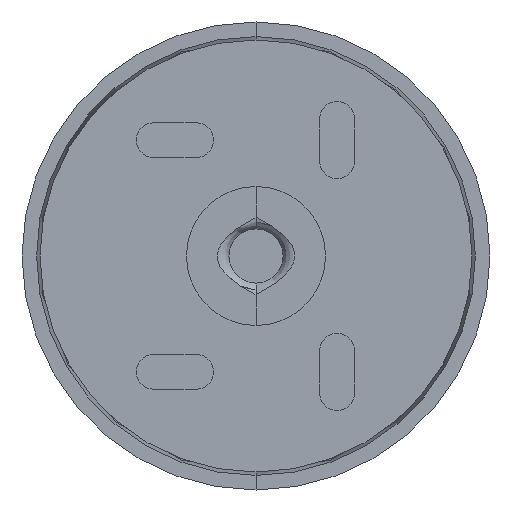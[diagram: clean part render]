
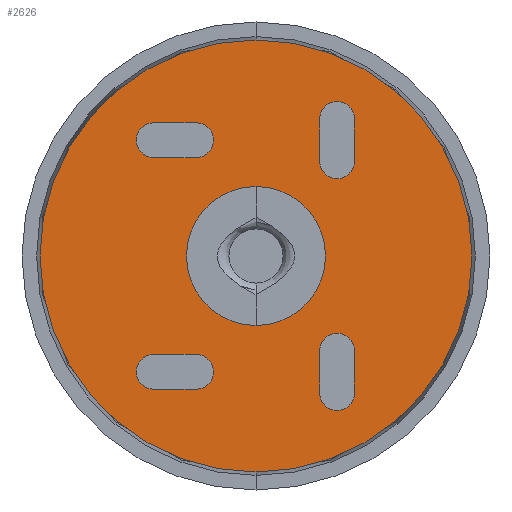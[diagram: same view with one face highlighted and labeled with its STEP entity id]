
A CAD part, front view. The second image highlights one B-rep face of the part: STEP entity #2626.
In plain terms, the highlighted planar face has unit normal (0, -1, 0) as drawn and (0, 0, -1) by its records, which use the part's own axes.
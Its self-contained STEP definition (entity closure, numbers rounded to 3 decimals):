
#86=FACE_BOUND('',#385,.T.);
#87=FACE_BOUND('',#386,.T.);
#88=FACE_BOUND('',#387,.T.);
#89=FACE_BOUND('',#388,.T.);
#90=FACE_BOUND('',#389,.T.);
#158=PLANE('',#2827);
#220=FACE_OUTER_BOUND('',#384,.T.);
#384=EDGE_LOOP('',(#1822,#1823));
#385=EDGE_LOOP('',(#1824,#1825,#1826,#1827));
#386=EDGE_LOOP('',(#1828,#1829,#1830,#1831));
#387=EDGE_LOOP('',(#1832,#1833,#1834,#1835));
#388=EDGE_LOOP('',(#1836,#1837,#1838,#1839));
#389=EDGE_LOOP('',(#1840,#1841));
#598=LINE('',#4107,#754);
#603=LINE('',#4120,#759);
#606=LINE('',#4131,#762);
#611=LINE('',#4144,#767);
#614=LINE('',#4155,#770);
#619=LINE('',#4168,#775);
#622=LINE('',#4179,#778);
#627=LINE('',#4192,#783);
#754=VECTOR('',#3196,304.8);
#759=VECTOR('',#3209,304.8);
#762=VECTOR('',#3220,304.8);
#767=VECTOR('',#3233,304.8);
#770=VECTOR('',#3244,304.8);
#775=VECTOR('',#3257,304.8);
#778=VECTOR('',#3268,304.8);
#783=VECTOR('',#3281,304.8);
#905=CIRCLE('',#2785,27.964);
#907=CIRCLE('',#2788,27.964);
#909=CIRCLE('',#2791,9.);
#911=CIRCLE('',#2794,9.);
#913=CIRCLE('',#2798,2.25);
#915=CIRCLE('',#2802,2.25);
#917=CIRCLE('',#2806,2.25);
#919=CIRCLE('',#2810,2.25);
#921=CIRCLE('',#2814,2.25);
#923=CIRCLE('',#2818,2.25);
#925=CIRCLE('',#2822,2.25);
#927=CIRCLE('',#2826,2.25);
#1120=VERTEX_POINT('',#4080);
#1121=VERTEX_POINT('',#4082);
#1124=VERTEX_POINT('',#4092);
#1125=VERTEX_POINT('',#4094);
#1128=VERTEX_POINT('',#4104);
#1129=VERTEX_POINT('',#4106);
#1131=VERTEX_POINT('',#4112);
#1133=VERTEX_POINT('',#4118);
#1136=VERTEX_POINT('',#4128);
#1137=VERTEX_POINT('',#4130);
#1139=VERTEX_POINT('',#4136);
#1141=VERTEX_POINT('',#4142);
#1144=VERTEX_POINT('',#4152);
#1145=VERTEX_POINT('',#4154);
#1147=VERTEX_POINT('',#4160);
#1149=VERTEX_POINT('',#4166);
#1152=VERTEX_POINT('',#4176);
#1153=VERTEX_POINT('',#4178);
#1155=VERTEX_POINT('',#4184);
#1157=VERTEX_POINT('',#4190);
#1358=EDGE_CURVE('',#1121,#1120,#905,.T.);
#1361=EDGE_CURVE('',#1120,#1121,#907,.T.);
#1364=EDGE_CURVE('',#1125,#1124,#909,.T.);
#1367=EDGE_CURVE('',#1124,#1125,#911,.T.);
#1370=EDGE_CURVE('',#1129,#1128,#598,.T.);
#1374=EDGE_CURVE('',#1128,#1131,#913,.T.);
#1377=EDGE_CURVE('',#1131,#1133,#603,.T.);
#1379=EDGE_CURVE('',#1133,#1129,#915,.T.);
#1382=EDGE_CURVE('',#1137,#1136,#606,.T.);
#1386=EDGE_CURVE('',#1136,#1139,#917,.T.);
#1389=EDGE_CURVE('',#1139,#1141,#611,.T.);
#1391=EDGE_CURVE('',#1141,#1137,#919,.T.);
#1394=EDGE_CURVE('',#1145,#1144,#614,.T.);
#1398=EDGE_CURVE('',#1144,#1147,#921,.T.);
#1401=EDGE_CURVE('',#1147,#1149,#619,.T.);
#1403=EDGE_CURVE('',#1149,#1145,#923,.T.);
#1406=EDGE_CURVE('',#1153,#1152,#622,.T.);
#1410=EDGE_CURVE('',#1152,#1155,#925,.T.);
#1413=EDGE_CURVE('',#1155,#1157,#627,.T.);
#1415=EDGE_CURVE('',#1157,#1153,#927,.T.);
#1822=ORIENTED_EDGE('',*,*,#1358,.T.);
#1823=ORIENTED_EDGE('',*,*,#1361,.T.);
#1824=ORIENTED_EDGE('',*,*,#1406,.T.);
#1825=ORIENTED_EDGE('',*,*,#1410,.T.);
#1826=ORIENTED_EDGE('',*,*,#1413,.T.);
#1827=ORIENTED_EDGE('',*,*,#1415,.T.);
#1828=ORIENTED_EDGE('',*,*,#1394,.T.);
#1829=ORIENTED_EDGE('',*,*,#1398,.T.);
#1830=ORIENTED_EDGE('',*,*,#1401,.T.);
#1831=ORIENTED_EDGE('',*,*,#1403,.T.);
#1832=ORIENTED_EDGE('',*,*,#1382,.T.);
#1833=ORIENTED_EDGE('',*,*,#1386,.T.);
#1834=ORIENTED_EDGE('',*,*,#1389,.T.);
#1835=ORIENTED_EDGE('',*,*,#1391,.T.);
#1836=ORIENTED_EDGE('',*,*,#1370,.T.);
#1837=ORIENTED_EDGE('',*,*,#1374,.T.);
#1838=ORIENTED_EDGE('',*,*,#1377,.T.);
#1839=ORIENTED_EDGE('',*,*,#1379,.T.);
#1840=ORIENTED_EDGE('',*,*,#1364,.T.);
#1841=ORIENTED_EDGE('',*,*,#1367,.T.);
#2626=ADVANCED_FACE('',(#220,#86,#87,#88,#89,#90),#158,.T.);
#2785=AXIS2_PLACEMENT_3D('',#4083,#3169,#3170);
#2788=AXIS2_PLACEMENT_3D('',#4087,#3176,#3177);
#2791=AXIS2_PLACEMENT_3D('',#4095,#3183,#3184);
#2794=AXIS2_PLACEMENT_3D('',#4099,#3190,#3191);
#2798=AXIS2_PLACEMENT_3D('',#4114,#3203,#3204);
#2802=AXIS2_PLACEMENT_3D('',#4123,#3214,#3215);
#2806=AXIS2_PLACEMENT_3D('',#4138,#3227,#3228);
#2810=AXIS2_PLACEMENT_3D('',#4147,#3238,#3239);
#2814=AXIS2_PLACEMENT_3D('',#4162,#3251,#3252);
#2818=AXIS2_PLACEMENT_3D('',#4171,#3262,#3263);
#2822=AXIS2_PLACEMENT_3D('',#4186,#3275,#3276);
#2826=AXIS2_PLACEMENT_3D('',#4195,#3286,#3287);
#2827=AXIS2_PLACEMENT_3D('',#4196,#3288,#3289);
#3169=DIRECTION('center_axis',(0.,0.,-1.));
#3170=DIRECTION('ref_axis',(1.,0.,0.));
#3176=DIRECTION('center_axis',(0.,0.,-1.));
#3177=DIRECTION('ref_axis',(1.,0.,0.));
#3183=DIRECTION('center_axis',(0.,0.,1.));
#3184=DIRECTION('ref_axis',(0.,1.,0.));
#3190=DIRECTION('center_axis',(0.,0.,1.));
#3191=DIRECTION('ref_axis',(0.,1.,0.));
#3196=DIRECTION('',(0.,-1.,0.));
#3203=DIRECTION('center_axis',(0.,0.,1.));
#3204=DIRECTION('ref_axis',(-1.,0.,0.));
#3209=DIRECTION('',(0.,1.,0.));
#3214=DIRECTION('center_axis',(0.,0.,1.));
#3215=DIRECTION('ref_axis',(1.,0.,0.));
#3220=DIRECTION('',(-1.,0.,0.));
#3227=DIRECTION('center_axis',(0.,0.,1.));
#3228=DIRECTION('ref_axis',(0.,1.,0.));
#3233=DIRECTION('',(1.,0.,0.));
#3238=DIRECTION('center_axis',(0.,0.,1.));
#3239=DIRECTION('ref_axis',(0.,-1.,0.));
#3244=DIRECTION('',(1.,0.,0.));
#3251=DIRECTION('center_axis',(0.,0.,1.));
#3252=DIRECTION('ref_axis',(0.,-1.,0.));
#3257=DIRECTION('',(-1.,0.,0.));
#3262=DIRECTION('center_axis',(0.,0.,1.));
#3263=DIRECTION('ref_axis',(0.,1.,0.));
#3268=DIRECTION('',(0.,1.,0.));
#3275=DIRECTION('center_axis',(0.,0.,1.));
#3276=DIRECTION('ref_axis',(1.,0.,0.));
#3281=DIRECTION('',(0.,-1.,0.));
#3286=DIRECTION('center_axis',(0.,0.,1.));
#3287=DIRECTION('ref_axis',(-1.,0.,0.));
#3288=DIRECTION('center_axis',(0.,0.,-1.));
#3289=DIRECTION('ref_axis',(0.,-1.,0.));
#4080=CARTESIAN_POINT('',(27.964,0.,0.));
#4082=CARTESIAN_POINT('',(-27.964,0.,0.));
#4083=CARTESIAN_POINT('Origin',(0.,0.,0.));
#4087=CARTESIAN_POINT('Origin',(0.,0.,0.));
#4092=CARTESIAN_POINT('',(0.,-9.,0.));
#4094=CARTESIAN_POINT('',(0.,9.,0.));
#4095=CARTESIAN_POINT('Origin',(0.,0.,0.));
#4099=CARTESIAN_POINT('Origin',(0.,0.,0.));
#4104=CARTESIAN_POINT('',(-12.75,-17.75,0.));
#4106=CARTESIAN_POINT('',(-12.75,-12.25,0.));
#4107=CARTESIAN_POINT('',(-12.75,-12.25,0.));
#4112=CARTESIAN_POINT('',(-8.25,-17.75,0.));
#4114=CARTESIAN_POINT('Origin',(-10.5,-17.75,0.));
#4118=CARTESIAN_POINT('',(-8.25,-12.25,0.));
#4120=CARTESIAN_POINT('',(-8.25,-17.75,0.));
#4123=CARTESIAN_POINT('Origin',(-10.5,-12.25,0.));
#4128=CARTESIAN_POINT('',(7.75,-12.75,0.));
#4130=CARTESIAN_POINT('',(13.25,-12.75,0.));
#4131=CARTESIAN_POINT('',(13.25,-12.75,0.));
#4136=CARTESIAN_POINT('',(7.75,-17.25,0.));
#4138=CARTESIAN_POINT('Origin',(7.75,-15.,0.));
#4142=CARTESIAN_POINT('',(13.25,-17.25,0.));
#4144=CARTESIAN_POINT('',(7.75,-17.25,0.));
#4147=CARTESIAN_POINT('Origin',(13.25,-15.,0.));
#4152=CARTESIAN_POINT('',(13.25,12.75,0.));
#4154=CARTESIAN_POINT('',(7.75,12.75,0.));
#4155=CARTESIAN_POINT('',(7.75,12.75,0.));
#4160=CARTESIAN_POINT('',(13.25,17.25,0.));
#4162=CARTESIAN_POINT('Origin',(13.25,15.,0.));
#4166=CARTESIAN_POINT('',(7.75,17.25,0.));
#4168=CARTESIAN_POINT('',(13.25,17.25,0.));
#4171=CARTESIAN_POINT('Origin',(7.75,15.,0.));
#4176=CARTESIAN_POINT('',(-8.25,17.75,0.));
#4178=CARTESIAN_POINT('',(-8.25,12.25,0.));
#4179=CARTESIAN_POINT('',(-8.25,12.25,0.));
#4184=CARTESIAN_POINT('',(-12.75,17.75,0.));
#4186=CARTESIAN_POINT('Origin',(-10.5,17.75,0.));
#4190=CARTESIAN_POINT('',(-12.75,12.25,0.));
#4192=CARTESIAN_POINT('',(-12.75,17.75,0.));
#4195=CARTESIAN_POINT('Origin',(-10.5,12.25,0.));
#4196=CARTESIAN_POINT('Origin',(-12.75,12.25,0.));
